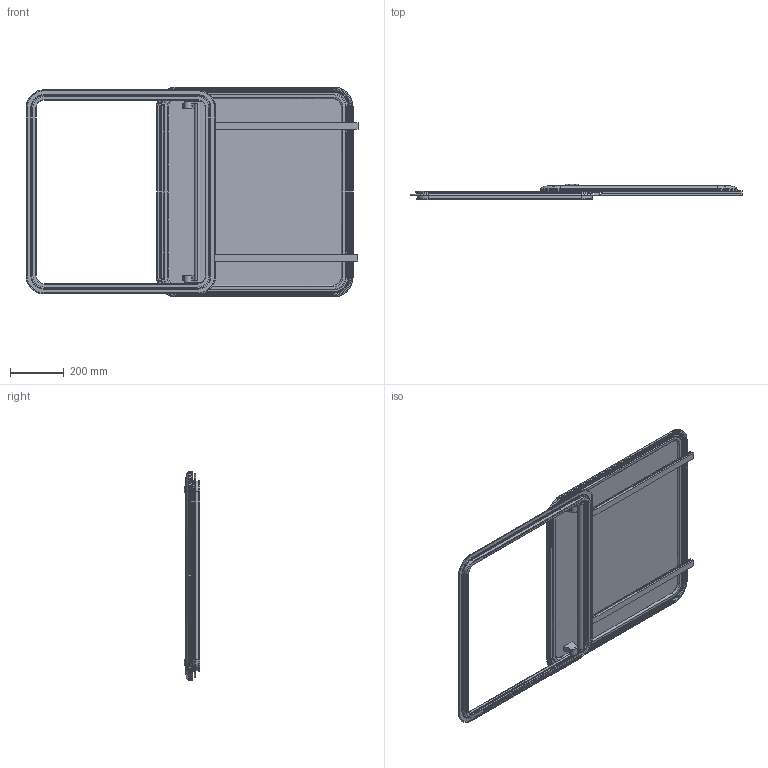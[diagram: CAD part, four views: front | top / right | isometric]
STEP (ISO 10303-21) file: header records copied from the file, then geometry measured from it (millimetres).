
FILE_DESCRIPTION((''),'2;1');
FILE_NAME('LEWMAR-HATCH-PILOT-N1_ASM','2008-02-06T',('skennedy'),(''),'PRO/ENGINEER BY PARAMETRIC TECHNOLOGY CORPORATION, 2007030','PRO/ENGINEER BY PARAMETRIC TECHNOLOGY CORPORATION, 2007030','');
FILE_SCHEMA(('CONFIG_CONTROL_DESIGN'));
Length unit declared in the file: millimetre
Products named in the file (5): FRAME_N1; 30159903; PILOT_HANDLE_N1; PILOT_N1_LOWER_ALL; LEWMAR-HATCH-PILOT-N1_ASM
Assembly tree (4 placements, depth 2):
  LEWMAR-HATCH-PILOT-N1_ASM
    FRAME_N1
    30159903
    PILOT_HANDLE_N1
    PILOT_N1_LOWER_ALL
Bounding box: 1234 x 57.8 x 780 mm (x, y, z)
Volume: 6595479.8 mm3; surface area: 2264988.1 mm2
Topology: 3 solids, 6 shells, 1093 faces, 2671 edges, 1620 vertices
Faces by surface type: plane 457, cylinder 312, bspline 192, torus 84, cone 40, sphere 8
Entity records: 37543 total; most frequent: CARTESIAN_POINT 12242, ORIENTED_EDGE 5342, DIRECTION 5063, EDGE_CURVE 2671, AXIS2_PLACEMENT_3D 1726, VERTEX_POINT 1620, VECTOR 1611, LINE 1611
